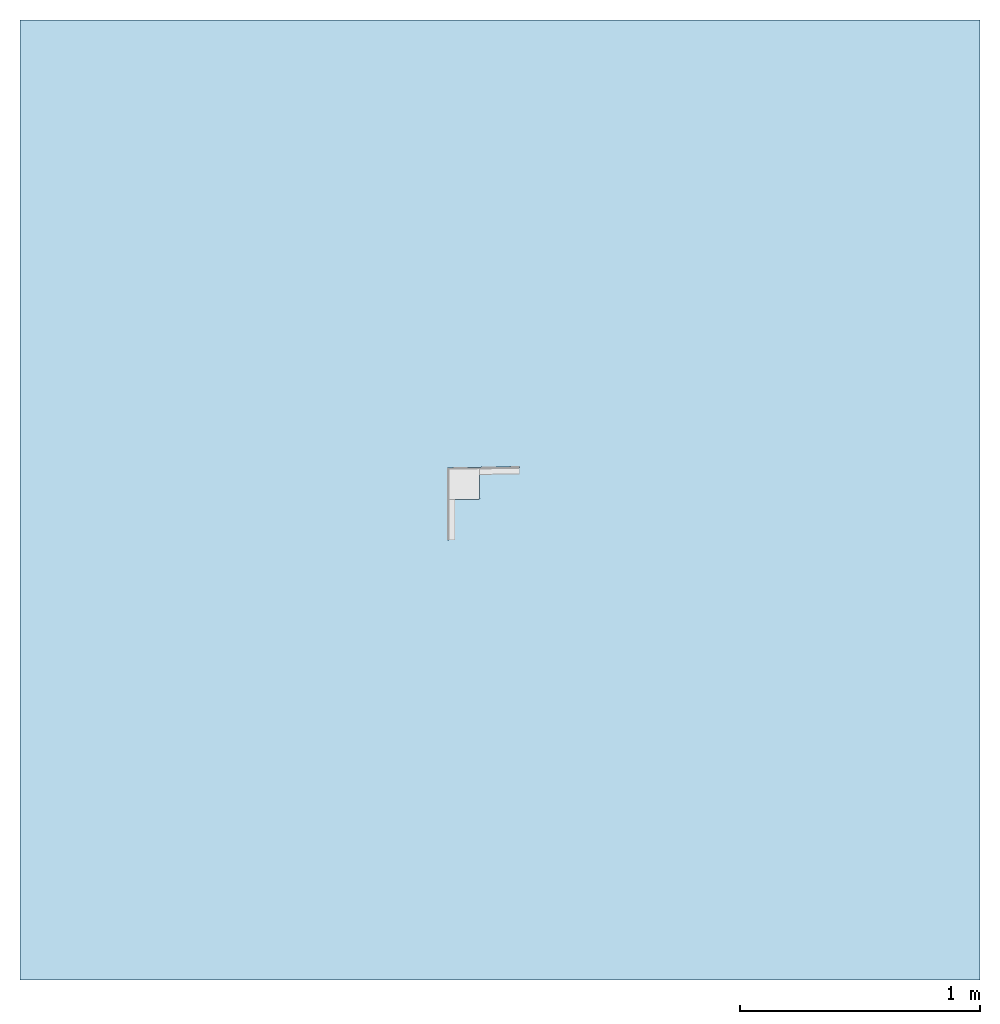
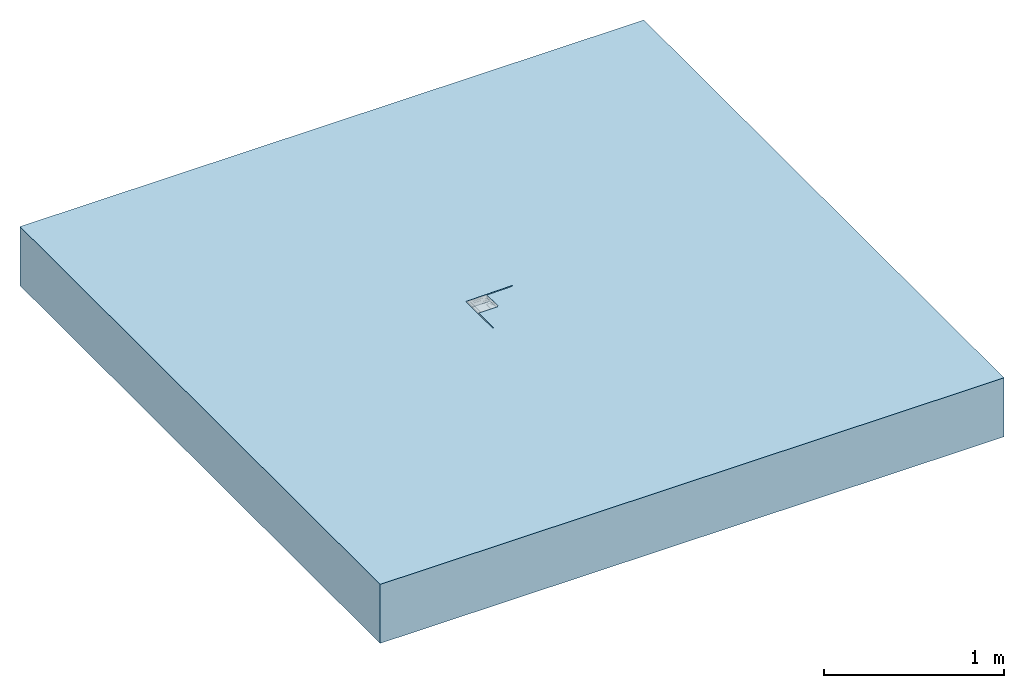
# One storey, incomplete: 1 slab, 2 openings.
"""IFC2X3 building model written with IfcOpenShell, lengths in millimetres."""

import ifcopenshell
import ifcopenshell.guid

model = None  # the IFC model being written
_history = None  # IfcOwnerHistory: only IFC2X3 demands one
_inside = {}  # id of a spatial element -> (the spatial element, [elements in it])
_under = {}  # id of a project, library or spatial element -> (it, [spatial elements below it])
_declared = {}  # id of a project -> (the project, [libraries it declares])
_typed = {}  # id of a type object -> (the type object, [elements of that type])
_made_of = {}  # id of a material, layer set ... -> (it, [elements and type objects made of it])


def new_model(schema):
    """Start an empty IFC model of exactly this schema.

    Asked for "IFC4X3", IfcOpenShell would pick the latest addendum, in which some entities
    have other attributes; the version numbers below select the first issue.
    IFC2X3 requires an IfcOwnerHistory on every rooted entity: one is made here for all.
    """
    global model, _history
    if schema == "IFC4X3":
        model = ifcopenshell.file(schema_version=(4, 3, 0, 0))
    else:
        model = ifcopenshell.file(schema=schema)
    _inside.clear()
    _under.clear()
    _declared.clear()
    _typed.clear()
    _made_of.clear()
    _history = None
    if model.schema == "IFC2X3":
        org = make("IfcOrganization", Name="unknown")
        user = make(
            "IfcPersonAndOrganization",
            ThePerson=make("IfcPerson", FamilyName="unknown"),
            TheOrganization=org,
        )
        app = make(
            "IfcApplication",
            ApplicationDeveloper=org,
            Version="unknown",
            ApplicationFullName="unknown",
            ApplicationIdentifier="unknown",
        )
        _history = make(
            "IfcOwnerHistory",
            OwningUser=user,
            OwningApplication=app,
            ChangeAction="ADDED",
            CreationDate=0,
        )
    return model


def make(cls, **values):
    """One entity of the class cls with the attributes given. An attribute that is None is left unset."""
    return model.create_entity(
        cls, **{name: value for name, value in values.items() if value is not None}
    )


def entity(cls, *values):
    """Any entity or typed value of the class cls, its attributes in the order of the schema. None: left unset."""
    e = model.create_entity(cls)
    for i, value in enumerate(values):
        if value is not None:
            e[i] = value
    return e


def rooted(cls, **values):
    """An entity with a GlobalId (a new one), such as an element, a storey or a relation."""
    return make(cls, GlobalId=ifcopenshell.guid.new(), OwnerHistory=_history, **values)


def si_unit(unit_type, name, prefix=None):
    """IfcSIUnit, for example si_unit("LENGTHUNIT", "METRE", prefix="MILLI")."""
    return make("IfcSIUnit", UnitType=unit_type, Prefix=prefix, Name=name)


def converted_unit(unit_type, name, factor, base, dimensions=None, offset=None):
    """IfcConversionBasedUnit, such as the inch: factor (a typed value) times the base unit."""
    return make(
        "IfcConversionBasedUnit"
        if offset is None
        else "IfcConversionBasedUnitWithOffset",
        ConversionOffset=offset,
        Dimensions=None
        if dimensions is None
        else entity("IfcDimensionalExponents", *dimensions),
        UnitType=unit_type,
        Name=name,
        ConversionFactor=make(
            "IfcMeasureWithUnit", ValueComponent=factor, UnitComponent=base
        ),
    )


def derived_unit(unit_type, elements):
    """IfcDerivedUnit: a product of units, each with its exponent."""
    return make(
        "IfcDerivedUnit",
        Elements=[
            make("IfcDerivedUnitElement", Unit=unit, Exponent=power)
            for unit, power in elements
        ],
        UnitType=unit_type,
    )


def assignment(units):
    """IfcUnitAssignment: the units of a project."""
    return None if units is None else make("IfcUnitAssignment", Units=units)


def point(xyz):
    """IfcCartesianPoint."""
    return None if xyz is None else make("IfcCartesianPoint", Coordinates=xyz)


def direction(xyz):
    """IfcDirection."""
    return None if xyz is None else make("IfcDirection", DirectionRatios=xyz)


def frame(location, z_axis=None, x_axis=None):
    """IfcAxis2Placement3D, a coordinate frame: its origin and axes. An axis left out is left unset."""
    return make(
        "IfcAxis2Placement3D",
        Location=point(location),
        Axis=direction(z_axis),
        RefDirection=direction(x_axis),
    )


def frame_2d(location, x_axis=None):
    """IfcAxis2Placement2D, a coordinate frame in the plane: its origin and x axis."""
    return make(
        "IfcAxis2Placement2D", Location=point(location), RefDirection=direction(x_axis)
    )


def origin():
    """The frame at (0, 0, 0) with its axes left unset."""
    return frame((0.0, 0.0, 0.0))


def place(relative_to, where):
    """IfcLocalPlacement: puts the frame where relative to a parent placement (None: the world)."""
    return make(
        "IfcLocalPlacement", PlacementRelTo=relative_to, RelativePlacement=where
    )


def context(
    kind, dimensions, precision=None, world=None, true_north=None, identifier=None
):
    """IfcGeometricRepresentationContext, for example the 3D "Model" context."""
    return make(
        "IfcGeometricRepresentationContext",
        ContextIdentifier=identifier,
        ContextType=kind,
        CoordinateSpaceDimension=dimensions,
        Precision=precision,
        WorldCoordinateSystem=world,
        TrueNorth=true_north,
    )


def subcontext(parent, identifier, kind, view, scale=None):
    """IfcGeometricRepresentationSubContext, for example "Body" below "Model"."""
    return make(
        "IfcGeometricRepresentationSubContext",
        ContextIdentifier=identifier,
        ContextType=kind,
        ParentContext=parent,
        TargetScale=scale,
        TargetView=view,
    )


def project(units=None, contexts=None):
    """IfcProject with its units and contexts."""
    return rooted(
        "IfcProject",
        Name="project",
        RepresentationContexts=contexts,
        UnitsInContext=assignment(units),
    )


def spatial(cls, under=None, at=None, **own):
    """A site, building, storey or space (cls), placed at a placement, below another one or the project."""
    s = rooted(cls, ObjectPlacement=at, **own)
    if under is not None:
        _under.setdefault(under.id(), (under, []))[1].append(s)
    return s


def polyline(points):
    """IfcPolyline through the points."""
    return make("IfcPolyline", Points=[point(p) for p in points])


def profile(cls, at=None, kind="AREA", **sizes):
    """A parametric profile (cls). Its sizes go by their IFC names, for example OverallWidth=200.0."""
    return make(cls, ProfileType=kind, Position=at, **sizes)


def rectangle(**sizes):
    """IfcRectangleProfileDef."""
    return profile("IfcRectangleProfileDef", **sizes)


def outline(outer, holes=None, kind="AREA"):
    """IfcArbitraryClosedProfileDef: a profile drawn as a closed curve; with holes, ...WithVoids."""
    if holes is None:
        return make("IfcArbitraryClosedProfileDef", ProfileType=kind, OuterCurve=outer)
    return make(
        "IfcArbitraryProfileDefWithVoids",
        ProfileType=kind,
        OuterCurve=outer,
        InnerCurves=holes,
    )


def extrude(swept, where, along, depth):
    """IfcExtrudedAreaSolid: the profile swept, set in the frame where, extruded along a direction by depth."""
    return make(
        "IfcExtrudedAreaSolid",
        SweptArea=swept,
        Position=where,
        ExtrudedDirection=direction(along),
        Depth=depth,
    )


def faces_of(points, faces, orient=None, outer=None):
    """IfcFace entities. A face is a list of loops; a loop is a list of indices into points, from 0.

    orient and outer hold one flag for each loop. By default every Orientation is true, the
    first loop of a face is its IfcFaceOuterBound and the others are IfcFaceBound.
    """
    made = []
    for i, loops in enumerate(faces):
        bounds = []
        for j, loop in enumerate(loops):
            is_outer = j == 0 if outer is None else outer[i][j]
            bounds.append(
                make(
                    "IfcFaceOuterBound" if is_outer else "IfcFaceBound",
                    Bound=make("IfcPolyLoop", Polygon=[points[k] for k in loop]),
                    Orientation=True if orient is None else orient[i][j],
                )
            )
        made.append(make("IfcFace", Bounds=bounds))
    return made


def faceted_brep(points, faces, orient=None, outer=None, voids=None):
    """IfcFacetedBrep: a solid bounded by flat faces; with voids (closed shells), ...WithVoids."""
    shared = [point(p) for p in points]
    hull = make("IfcClosedShell", CfsFaces=faces_of(shared, faces, orient, outer))
    if voids is None:
        return make("IfcFacetedBrep", Outer=hull)
    return make(
        "IfcFacetedBrepWithVoids",
        Outer=hull,
        Voids=[
            make(cls, CfsFaces=faces_of(shared, fs, o, b)) for cls, fs, o, b in voids
        ],
    )


def shape(context_of_items, identifier, shape_type, items):
    """IfcShapeRepresentation: the items that make up one representation, for example the "Body"."""
    return make(
        "IfcShapeRepresentation",
        ContextOfItems=context_of_items,
        RepresentationIdentifier=identifier,
        RepresentationType=shape_type,
        Items=items,
    )


def material(Name=None, Category=None):
    """IfcMaterial."""
    return make("IfcMaterial", Name=Name, Category=Category)


def layer(
    of_material, thickness, ventilated=None, Name=None, Category=None, Priority=None
):
    """IfcMaterialLayer: one layer of a wall or slab, of a material (None: an air gap)."""
    return make(
        "IfcMaterialLayer",
        Material=of_material,
        LayerThickness=thickness,
        IsVentilated=ventilated,
        Name=Name,
        Category=Category,
        Priority=Priority,
    )


def layer_set(layers, Name=None):
    """IfcMaterialLayerSet."""
    return make("IfcMaterialLayerSet", MaterialLayers=layers, LayerSetName=Name)


def layer_usage(for_layer_set, set_direction, sense, offset, extent=None):
    """IfcMaterialLayerSetUsage: how a layer set lies in its element."""
    return make(
        "IfcMaterialLayerSetUsage",
        ForLayerSet=for_layer_set,
        LayerSetDirection=set_direction,
        DirectionSense=sense,
        OffsetFromReferenceLine=offset,
        ReferenceExtent=extent,
    )


def made_of(thing, what):
    """Note that an element or type object is made of a material, layer set ...; save() writes the relation."""
    if what is not None:
        _made_of.setdefault(what.id(), (what, []))[1].append(thing)
    return thing


def element(
    cls,
    number,
    at=None,
    inside=None,
    cuts=None,
    type_object=None,
    material=None,
    context=None,
    identifier="Body",
    shape_type=None,
    held_by="IfcProductDefinitionShape",
    body=None,
    shapes=None,
    **own,
):
    """One element of the class cls, such as IfcWall. Its Tag is "e" and its number.

    at: its placement. inside: the storey or other place that contains it. cuts: it is an
    opening in that element (IfcRelVoidsElement). A single representation is given by context,
    identifier, shape_type and body (its items); several are given by shapes. held_by: the class
    of the entity that holds the representations. save() writes the other relations.
    """
    e = rooted(cls, Tag="e%d" % number, ObjectPlacement=at, **own)
    if body is not None:
        shapes = [shape(context, identifier, shape_type, body)]
    if shapes is not None:
        e.Representation = make(held_by, Representations=shapes)
    if inside is not None:
        _inside.setdefault(inside.id(), (inside, []))[1].append(e)
    if cuts is not None:
        rooted(
            "IfcRelVoidsElement", RelatingBuildingElement=cuts, RelatedOpeningElement=e
        )
    if type_object is not None:
        _typed.setdefault(type_object.id(), (type_object, []))[1].append(e)
    return made_of(e, material)


def aggregate(whole, parts):
    """IfcRelAggregates: a whole, such as a stair, and the parts it consists of."""
    return rooted("IfcRelAggregates", RelatingObject=whole, RelatedObjects=parts)


def save(model, path):
    """Write the relations noted so far, then the file.

    IfcRelAggregates (storeys below a building ...), IfcRelContainedInSpatialStructure (elements
    in a storey), IfcRelDefinesByType, IfcRelAssociatesMaterial and IfcRelDeclares: one each for
    every whole, place, type object, material and project.
    """
    for whole, parts in _under.values():
        aggregate(whole, parts)
    for where, things in _inside.values():
        rooted(
            "IfcRelContainedInSpatialStructure",
            RelatedElements=things,
            RelatingStructure=where,
        )
    for kind, things in _typed.values():
        rooted("IfcRelDefinesByType", RelatedObjects=things, RelatingType=kind)
    for what, things in _made_of.values():
        rooted("IfcRelAssociatesMaterial", RelatedObjects=things, RelatingMaterial=what)
    for by, libraries in _declared.values():
        rooted("IfcRelDeclares", RelatingContext=by, RelatedDefinitions=libraries)
    model.write(path)


model = new_model("IFC2X3")

# Units and contexts
model_context = context("Model", 3, precision=1e-05, world=origin(), true_north=direction((2.0, 6.12303176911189e-17, 1.0)))
context_of_model = context(None, 3, precision=1e-05, world=origin(), true_north=direction((2.0, 6.12303176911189e-17, 1.0)))
body_context = subcontext(model_context, "Body", "Model", "MODEL_VIEW")
ifc_project = project(units=[si_unit("LENGTHUNIT", "METRE", prefix="MILLI"), si_unit("AREAUNIT", "SQUARE_METRE"), si_unit("VOLUMEUNIT", "CUBIC_METRE"), converted_unit("PLANEANGLEUNIT", "DEGREE", entity("IfcRatioMeasure", 0.0174532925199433), si_unit("PLANEANGLEUNIT", "RADIAN"), dimensions=[0, 0, 0, 0, 0, 0, 0]), si_unit("MASSUNIT", "GRAM", prefix="KILO"), si_unit("TIMEUNIT", "SECOND"), si_unit("THERMODYNAMICTEMPERATUREUNIT", "KELVIN"), derived_unit("THERMALTRANSMITTANCEUNIT", [(si_unit("MASSUNIT", "GRAM", prefix="KILO"), 1), (si_unit("THERMODYNAMICTEMPERATUREUNIT", "KELVIN"), -1), (si_unit("TIMEUNIT", "SECOND"), -3)]), derived_unit("VOLUMETRICFLOWRATEUNIT", [(si_unit("LENGTHUNIT", "METRE"), 3), (si_unit("TIMEUNIT", "SECOND"), -1)]), si_unit("POWERUNIT", "WATT")], contexts=[model_context, context_of_model])

# Site, building, storey
site_placement = place(None, origin())
site = spatial("IfcSite", under=ifc_project, at=site_placement, Name="Default", CompositionType="ELEMENT")
building_placement = place(site_placement, origin())
building = spatial("IfcBuilding", under=site, at=building_placement, CompositionType="ELEMENT")
storey_placement = place(building_placement, origin())
storey = spatial("IfcBuildingStorey", under=building, at=storey_placement, Name="Level 1", CompositionType="ELEMENT", Elevation=0.0)

# Slab, openings
ifc_material = material(Name="Concrete, Broom Finish")
ifc_layer = layer(ifc_material, 400.0)
ifc_layer_set = layer_set([ifc_layer], Name="Floor:Generic Floor - 400mm")
ifc_layer_usage = layer_usage(ifc_layer_set, "AXIS3", "POSITIVE", 0.0)
slab_placement = place(storey_placement, origin())
slab = element("IfcSlab", 1, at=slab_placement, inside=storey, material=ifc_layer_usage, Name="Floor:Generic Floor - 400mm", ObjectType="Floor:Generic Floor - 400mm", PredefinedType="FLOOR", context=body_context, shape_type="SweptSolid", body=[
    extrude(rectangle(XDim=4000.0, YDim=4000.0, at=frame_2d((0.0, 0.0), x_axis=(0.0, -1.0))), frame((-42.176138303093, 2.05004766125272, 0.0), z_axis=(0.0, 0.0, -1.0), x_axis=(-1.0, 0.0, 0.0)), (0.0, 0.0, 1.0), 400.0),
])
opening_1_placement = place(slab_placement, origin())
element("IfcOpeningElement", 2, at=opening_1_placement, cuts=slab, ObjectType="Recess", context=body_context, shape_type="Brep", body=[
    faceted_brep([(41.5723920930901, 11.3269004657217, -21.0), (39.4257461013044, 134.308166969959, -21.0), (-126.505821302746, 8.39308433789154, -21.0), (35.0617798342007, 134.231993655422, -21.0), (-130.650729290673, -163.92862109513, -21.0), (-130.650729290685, 4.17519532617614, -21.0), (-253.650729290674, -163.92862109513, -21.0), (-253.650729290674, 4.17519532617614, -21.0), (-253.650729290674, -0.18943650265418, -21.0), (-128.669919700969, 132.374198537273, -20.0), (-128.652467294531, 131.374350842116, -21.0), (-128.664808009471, 132.081349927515, -20.7071067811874), (-126.505821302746, 8.39308433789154, 0.0), (-128.669919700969, 132.374198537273, 0.0), (41.5723920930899, 11.3269004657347, -53.0), (-130.650729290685, 8.32073469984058, -53.0), (-130.650729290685, 8.32073469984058, 0.0), (39.3035792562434, 141.307100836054, -53.0), (-260.650729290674, 136.07137890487, -53.0), (-260.650729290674, -163.92862109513, -53.0), (-130.650729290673, -163.92862109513, -53.0), (39.4082936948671, 135.308014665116, 0.0), (39.3035792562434, 141.307100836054, 0.0), (-254.650729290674, 4.17519532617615, 0.0), (-260.650729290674, 136.07137890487, 0.0), (-260.650729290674, -163.92862109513, 0.0), (-130.650729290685, 4.17519532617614, 0.0), (-254.650729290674, -163.92862109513, 0.0), (-254.357836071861, 4.17519532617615, -20.7071067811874), (-254.650729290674, 4.17519532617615, -20.0), (39.4134053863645, 135.015166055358, -20.7071067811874), (39.4082936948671, 135.308014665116, -20.0), (-119.941987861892, 132.526545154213, -20.0), (-254.357836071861, -163.92862109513, -20.7071067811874), (-254.650729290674, -163.92862109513, -20.0), (-254.650729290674, -155.199359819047, -20.0), (11.3518636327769, 134.526729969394, -20.7057243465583), (13.1635249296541, 133.849758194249, -21.0), (17.9194835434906, 134.679676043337, -20.6650615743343), (-6.64296938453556, 134.180030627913, -20.736999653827), (-0.754531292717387, 134.350030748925, -20.6691804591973), (-3.5781635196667, 134.557683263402, -20.0), (-121.331993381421, 132.209344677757, -20.7071067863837), (-23.6035840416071, 133.207985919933, -21.0), (-20.9892383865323, 133.934181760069, -20.7327865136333), (-27.1705127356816, 133.79898656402, -20.7572180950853), (25.9573310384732, 134.746934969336, -20.7389525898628), (23.6684132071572, 134.033121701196, -21.0), (-115.572910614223, 132.30986984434, -20.70710678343), (-111.214056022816, 132.678891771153, -20.0), (-76.1280254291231, 132.291168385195, -21.0), (-71.9333563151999, 133.077555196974, -20.7011030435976), (-77.6129673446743, 132.962493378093, -20.7169364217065), (-105.055681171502, 131.786234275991, -21.0), (-101.996827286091, 132.504789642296, -20.7467885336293), (-109.813827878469, 132.410395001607, -20.7071067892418), (-57.7563605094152, 133.293164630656, -20.7320844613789), (-55.1182488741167, 132.65789539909, -21.0), (-52.504661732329, 133.306654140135, -20.7977059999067), (-70.8755812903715, 132.382850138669, -21.0), (-66.2515972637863, 133.176786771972, -20.7010459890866), (-111.196603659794, 131.679044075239, -21.0), (-37.3480495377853, 133.670882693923, -20.7114860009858), (-40.4236988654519, 133.914542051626, -20.0), (-47.2514161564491, 133.473313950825, -20.735062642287), (27.1264484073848, 135.093634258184, -20.0), (31.9789780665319, 134.885397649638, -20.7071067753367), (-85.0302610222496, 133.135931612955, -20.0), (-93.7581928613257, 132.983584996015, -20.0), (-89.3903673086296, 132.838614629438, -20.6272441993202), (-9.71908590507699, 134.450493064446, -20.0), (-12.5717578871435, 134.141893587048, -20.6712472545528), (18.4159690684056, 133.941439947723, -21.0), (14.8446036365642, 134.879253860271, -20.0), (-22.0009306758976, 134.236112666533, -20.0), (35.0443275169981, 135.231841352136, -20.0), (-119.924535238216, 131.526697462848, -21.0), (28.9208573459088, 134.12480345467, -21.0), (20.9855260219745, 134.986444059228, -20.0), (-98.91475868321, 131.893424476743, -21.0), (-95.8149596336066, 132.63018896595, -20.7308357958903), (-76.3023296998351, 133.288278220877, -20.0), (-67.574397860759, 133.440624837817, -20.0), (7.91108079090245, 133.758076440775, -21.0), (5.16087938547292, 134.413840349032, -20.7105351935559), (8.70368125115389, 134.772063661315, -20.0), (-2.59380748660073, 133.574712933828, -21.0), (2.65863665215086, 133.666394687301, -21.0), (-13.0986957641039, 133.39134942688, -21.0), (-7.84625162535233, 133.483031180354, -21.0), (2.5627588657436, 134.664873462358, -20.0), (-18.3511399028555, 133.299667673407, -21.0), (-15.8600082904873, 134.343302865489, -20.0), (-28.1418530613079, 134.128922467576, -20.0), (-34.2827759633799, 134.021732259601, -20.0), (-32.2096983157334, 133.840438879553, -20.6225826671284), (-28.8560281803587, 133.116304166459, -21.0), (-34.1084723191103, 133.024622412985, -21.0), (-102.486124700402, 132.831238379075, -20.0), (-92.7738361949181, 132.000614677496, -21.0), (-83.2882222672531, 132.835769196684, -20.7428296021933), (-86.6329137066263, 132.107804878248, -21.0), (-81.3804695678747, 132.199486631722, -21.0), (-52.7055436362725, 133.700161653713, -20.0), (-58.8464660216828, 133.592971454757, -20.0), (-65.6231371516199, 132.474531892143, -21.0), (-60.3706930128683, 132.566213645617, -21.0), (-46.5646212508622, 133.80735185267, -20.0), (-49.8658047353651, 132.749577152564, -21.0), (-44.6133605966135, 132.841258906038, -21.0), (-39.3609164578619, 132.932940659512, -21.0), (-254.359215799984, -23.8905961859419, -20.7057243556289), (-253.650729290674, -22.0910256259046, -21.0), (-254.397517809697, -17.3213075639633, -20.665061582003), (-254.326622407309, -41.8887393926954, -20.7369996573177), (-254.393829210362, -35.998231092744, -20.6691804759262), (-254.650729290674, -38.8178088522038, -20.0), (-254.357836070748, -156.594689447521, -20.7071067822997), (-253.650729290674, -58.8637349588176, -21.0), (-254.331187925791, -56.2371136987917, -20.732786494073), (-254.303891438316, -62.4198060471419, -20.7572180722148), (-254.324486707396, -9.28351022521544, -20.7389525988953), (-253.650729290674, -11.5845372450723, -21.0), (-254.357836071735, -150.834729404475, -20.7071067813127), (-254.650729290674, -146.470098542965, -20.0), (-253.650729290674, -111.396176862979, -21.0), (-254.363789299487, -107.188423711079, -20.701103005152), (-254.347867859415, -112.869177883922, -20.716936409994), (-253.650729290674, -140.328239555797, -21.0), (-254.31579086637, -137.257311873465, -20.7467885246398), (-254.35783607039, -145.074769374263, -20.707106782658), (-254.331943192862, -93.0098235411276, -20.7320844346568), (-253.650729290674, -90.3832001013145, -21.0), (-254.25377587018, -87.7586891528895, -20.7977059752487), (-253.650729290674, -106.142932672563, -21.0), (-254.36384537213, -101.505798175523, -20.7010459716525), (-253.650729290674, -146.470096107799, -21.0), (-254.353429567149, -72.5980291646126, -20.7114859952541), (-254.650729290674, -75.668956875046, -20.0), (-254.328728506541, -82.5033350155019, -20.7350626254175), (-254.650729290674, -8.10851883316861, -20.0), (-254.357836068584, -3.2603641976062, -20.7071067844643), (-254.650729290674, -120.282314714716, -20.0), (-254.650729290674, -129.011575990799, -20.0), (-254.429551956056, -124.646945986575, -20.6272441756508), (-254.650729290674, -44.9596668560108, -20.0), (-254.391962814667, -47.8172903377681, -20.6712472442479), (-253.650729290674, -16.8377814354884, -21.0), (-254.650729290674, -20.3922348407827, -20.0), (-254.650729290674, -57.2433828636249, -20.0), (-254.650729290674, -0.189435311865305, -20.0), (-253.650729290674, -155.19935976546, -21.0), (-253.650729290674, -6.33129305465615, -21.0), (-254.650729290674, -14.2503768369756, -20.0), (-253.650729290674, -134.186380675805, -21.0), (-254.333282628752, -131.074197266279, -20.730835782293), (-254.650729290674, -111.553053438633, -20.0), (-254.650729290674, -102.82379216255, -20.0), (-253.650729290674, -27.3442698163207, -21.0), (-254.354390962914, -30.0826075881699, -20.7105351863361), (-254.650729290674, -26.5340928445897, -20.0), (-253.650729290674, -37.850758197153, -21.0), (-253.650729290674, -32.5975140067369, -21.0), (-253.650729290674, -48.3572465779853, -21.0), (-253.650729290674, -43.1040023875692, -21.0), (-254.650729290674, -32.6759508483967, -20.0), (-253.650729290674, -53.6104907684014, -21.0), (-254.650729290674, -51.1015248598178, -20.0), (-254.650729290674, -63.3852408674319, -20.0), (-254.650729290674, -69.5270988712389, -20.0), (-254.433283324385, -67.457501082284, -20.6225826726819), (-253.650729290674, -64.1169791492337, -21.0), (-253.650729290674, -69.3702233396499, -21.0), (-254.650729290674, -137.740837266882, -20.0), (-253.650729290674, -128.044521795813, -21.0), (-254.320209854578, -118.54578016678, -20.7428295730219), (-253.650729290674, -121.902665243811, -21.0), (-253.650729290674, -116.649421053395, -21.0), (-254.650729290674, -87.95267288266, -20.0), (-254.650729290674, -94.094530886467, -20.0), (-253.650729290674, -100.889688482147, -21.0), (-253.650729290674, -95.6364442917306, -21.0), (-254.650729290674, -81.810814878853, -20.0), (-253.650729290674, -85.1299559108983, -21.0), (-253.650729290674, -79.8767117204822, -21.0), (-253.650729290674, -74.623467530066, -21.0)], [[[0, 1, 2]], [[2, 1, 3]], [[4, 5, 6]], [[5, 7, 8]], [[9, 10, 11]], [[2, 10, 12]], [[9, 13, 10]], [[12, 10, 13]], [[14, 0, 2]], [[14, 2, 15]], [[16, 15, 2]], [[16, 2, 12]], [[17, 14, 15]], [[17, 15, 18]], [[19, 18, 15]], [[19, 15, 20]], [[21, 22, 13]], [[12, 13, 16]], [[16, 13, 23]], [[22, 24, 13]], [[23, 24, 25]], [[23, 26, 16]], [[27, 23, 25]], [[23, 13, 24]], [[28, 7, 29]], [[26, 7, 5]], [[7, 23, 29]], [[23, 7, 26]], [[5, 15, 16]], [[5, 16, 26]], [[5, 4, 20]], [[5, 20, 15]], [[1, 0, 14]], [[30, 1, 17]], [[14, 17, 1]], [[17, 31, 30]], [[31, 22, 21]], [[17, 22, 31]], [[21, 9, 32]], [[13, 9, 21]], [[22, 17, 24]], [[18, 24, 17]], [[20, 4, 6]], [[19, 6, 33]], [[6, 19, 20]], [[33, 34, 19]], [[27, 25, 34]], [[34, 25, 19]], [[29, 23, 27]], [[27, 34, 35]], [[24, 18, 19]], [[19, 25, 24]], [[36, 37, 38]], [[39, 40, 41]], [[42, 32, 9]], [[43, 44, 45]], [[46, 38, 47]], [[32, 48, 49]], [[50, 51, 52]], [[53, 54, 55]], [[56, 57, 58]], [[51, 59, 60]], [[55, 48, 61]], [[42, 48, 32]], [[62, 63, 64]], [[65, 46, 66]], [[67, 68, 69]], [[39, 70, 71]], [[72, 38, 37]], [[38, 73, 36]], [[74, 45, 44]], [[3, 1, 30]], [[30, 31, 75]], [[30, 66, 3]], [[76, 61, 48]], [[11, 10, 42]], [[66, 77, 3]], [[46, 77, 66]], [[66, 75, 65]], [[75, 66, 30]], [[72, 47, 38]], [[78, 38, 46]], [[73, 38, 78]], [[46, 65, 78]], [[54, 79, 80]], [[70, 39, 41]], [[81, 51, 82]], [[83, 36, 84]], [[36, 85, 84]], [[86, 87, 40]], [[86, 40, 39]], [[88, 89, 71]], [[90, 40, 84]], [[43, 91, 44]], [[39, 71, 89]], [[90, 84, 85]], [[36, 73, 85]], [[91, 88, 71]], [[71, 92, 44]], [[93, 45, 74]], [[71, 44, 91]], [[41, 40, 90]], [[62, 94, 63]], [[45, 93, 95]], [[96, 43, 45]], [[95, 62, 97]], [[74, 44, 92]], [[71, 70, 92]], [[40, 87, 84]], [[47, 77, 46]], [[87, 83, 84]], [[55, 49, 48]], [[97, 96, 95]], [[76, 48, 42]], [[80, 98, 54]], [[98, 55, 54]], [[98, 49, 55]], [[79, 54, 53]], [[55, 61, 53]], [[68, 98, 80]], [[80, 69, 68]], [[80, 99, 69]], [[67, 69, 100]], [[60, 82, 51]], [[101, 100, 69]], [[67, 100, 81]], [[101, 69, 99]], [[80, 79, 99]], [[100, 102, 52]], [[76, 42, 10]], [[100, 101, 102]], [[11, 42, 9]], [[64, 103, 58]], [[104, 60, 56]], [[36, 83, 37]], [[52, 102, 50]], [[60, 104, 82]], [[105, 106, 60]], [[106, 56, 60]], [[56, 106, 57]], [[103, 104, 56]], [[107, 103, 64]], [[64, 108, 109]], [[108, 58, 57]], [[63, 107, 64]], [[94, 62, 95]], [[110, 62, 109]], [[64, 109, 62]], [[56, 58, 103]], [[64, 58, 108]], [[110, 97, 62]], [[94, 95, 93]], [[96, 45, 95]], [[52, 81, 100]], [[52, 51, 81]], [[89, 86, 39]], [[105, 60, 59]], [[51, 50, 59]], [[111, 112, 113]], [[114, 115, 116]], [[117, 35, 34]], [[118, 119, 120]], [[121, 113, 122]], [[35, 123, 124]], [[125, 126, 127]], [[128, 129, 130]], [[131, 132, 133]], [[126, 134, 135]], [[130, 123, 136]], [[117, 123, 35]], [[137, 138, 139]], [[140, 121, 141]], [[142, 143, 144]], [[114, 145, 146]], [[147, 113, 112]], [[113, 148, 111]], [[149, 120, 119]], [[8, 7, 28]], [[28, 29, 150]], [[28, 141, 8]], [[151, 136, 123]], [[33, 6, 117]], [[141, 152, 8]], [[121, 152, 141]], [[141, 150, 140]], [[150, 141, 28]], [[147, 122, 113]], [[153, 113, 121]], [[148, 113, 153]], [[121, 140, 153]], [[129, 154, 155]], [[145, 114, 116]], [[156, 126, 157]], [[158, 111, 159]], [[111, 160, 159]], [[161, 162, 115]], [[161, 115, 114]], [[163, 164, 146]], [[165, 115, 159]], [[118, 166, 119]], [[114, 146, 164]], [[165, 159, 160]], [[111, 148, 160]], [[166, 163, 146]], [[146, 167, 119]], [[168, 120, 149]], [[146, 119, 166]], [[116, 115, 165]], [[137, 169, 138]], [[120, 168, 170]], [[171, 118, 120]], [[170, 137, 172]], [[149, 119, 167]], [[146, 145, 167]], [[115, 162, 159]], [[122, 152, 121]], [[162, 158, 159]], [[130, 124, 123]], [[172, 171, 170]], [[151, 123, 117]], [[155, 173, 129]], [[173, 130, 129]], [[173, 124, 130]], [[154, 129, 128]], [[130, 136, 128]], [[143, 173, 155]], [[155, 144, 143]], [[155, 174, 144]], [[142, 144, 175]], [[135, 157, 126]], [[176, 175, 144]], [[142, 175, 156]], [[176, 144, 174]], [[155, 154, 174]], [[175, 177, 127]], [[151, 117, 6]], [[175, 176, 177]], [[33, 117, 34]], [[139, 178, 133]], [[179, 135, 131]], [[111, 158, 112]], [[127, 177, 125]], [[135, 179, 157]], [[180, 181, 135]], [[181, 131, 135]], [[131, 181, 132]], [[178, 179, 131]], [[182, 178, 139]], [[139, 183, 184]], [[183, 133, 132]], [[138, 182, 139]], [[169, 137, 170]], [[185, 137, 184]], [[139, 184, 137]], [[131, 133, 178]], [[139, 133, 183]], [[185, 172, 137]], [[169, 170, 168]], [[171, 120, 170]], [[127, 156, 175]], [[127, 126, 156]], [[164, 161, 114]], [[180, 135, 134]], [[126, 125, 134]], [[2, 3, 77]], [[2, 77, 47]], [[2, 47, 72]], [[2, 72, 37]], [[2, 37, 83]], [[2, 83, 87]], [[2, 87, 86]], [[2, 86, 89]], [[2, 89, 88]], [[2, 88, 91]], [[2, 91, 43]], [[2, 43, 96]], [[2, 96, 97]], [[2, 97, 110]], [[2, 110, 109]], [[2, 109, 108]], [[2, 108, 57]], [[2, 57, 106]], [[2, 106, 105]], [[2, 105, 59]], [[2, 59, 50]], [[2, 50, 102]], [[2, 102, 101]], [[2, 101, 99]], [[2, 99, 79]], [[2, 79, 53]], [[2, 53, 61]], [[2, 61, 76]], [[2, 76, 10]], [[5, 8, 152]], [[5, 152, 122]], [[5, 122, 147]], [[5, 147, 112]], [[5, 112, 158]], [[5, 158, 162]], [[5, 162, 161]], [[5, 161, 164]], [[5, 164, 163]], [[5, 163, 166]], [[5, 166, 118]], [[5, 118, 171]], [[5, 171, 172]], [[5, 172, 185]], [[5, 185, 184]], [[5, 184, 183]], [[5, 183, 132]], [[5, 132, 181]], [[5, 181, 180]], [[5, 180, 134]], [[5, 134, 125]], [[5, 125, 177]], [[5, 177, 176]], [[5, 176, 174]], [[5, 174, 154]], [[5, 154, 128]], [[5, 128, 136]], [[5, 136, 151]], [[5, 151, 6]], [[21, 32, 49]], [[21, 49, 98]], [[21, 98, 68]], [[21, 68, 67]], [[21, 67, 81]], [[21, 81, 82]], [[21, 82, 104]], [[21, 104, 103]], [[21, 103, 107]], [[21, 107, 63]], [[21, 63, 94]], [[21, 94, 93]], [[21, 93, 74]], [[21, 74, 92]], [[21, 92, 70]], [[21, 70, 41]], [[21, 41, 90]], [[21, 90, 85]], [[21, 85, 73]], [[21, 73, 78]], [[21, 78, 65]], [[21, 65, 75]], [[21, 75, 31]], [[27, 35, 124]], [[27, 124, 173]], [[27, 173, 143]], [[27, 143, 142]], [[27, 142, 156]], [[27, 156, 157]], [[27, 157, 179]], [[27, 179, 178]], [[27, 178, 182]], [[27, 182, 138]], [[27, 138, 169]], [[27, 169, 168]], [[27, 168, 149]], [[27, 149, 167]], [[27, 167, 145]], [[27, 145, 116]], [[27, 116, 165]], [[27, 165, 160]], [[27, 160, 148]], [[27, 148, 153]], [[27, 153, 140]], [[27, 140, 150]], [[27, 150, 29]]]),
])
opening_2_placement = place(slab_placement, origin())
element("IfcOpeningElement", 3, at=opening_2_placement, cuts=slab, ObjectType="Recess", context=body_context, shape_type="SweptSolid", body=[
    extrude(outline(polyline([(-42.2500000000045, -67.0), (3.7499999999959, -67.0), (3.75000000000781, -65.0), (34.7500000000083, -65.0), (34.7500000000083, 65.0), (3.7499999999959, 65.0), (3.7499999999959, 67.0), (-42.2500000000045, 67.0), (-42.2500000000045, -67.0)])), frame((-260.650729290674, 136.071378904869, -4996.25000000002), z_axis=(0.0, 1.0, 0.0), x_axis=(0.0, 0.0, -1.0)), (0.0, 0.0, 1.0), 600.0),
])

save(model, "model.ifc")
